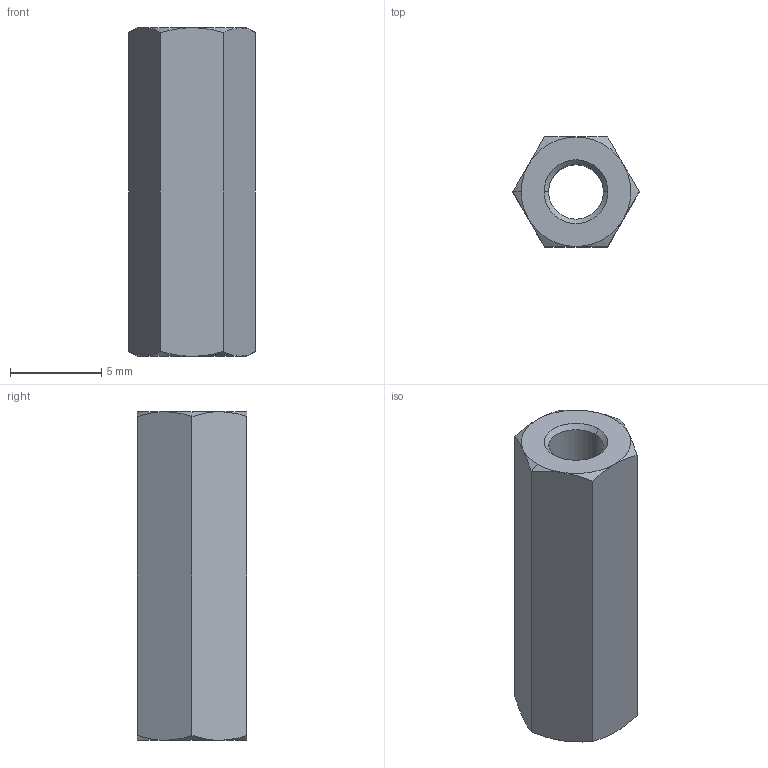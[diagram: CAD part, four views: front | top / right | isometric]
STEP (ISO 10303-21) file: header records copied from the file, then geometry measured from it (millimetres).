
FILE_DESCRIPTION (( 'STEP AP203' ), '1' );
FILE_NAME ('N0503.030-018-NP.step', '2025-02-27T14:41:14', ( '' ), ( '' ), 'SwSTEP 2.0', 'SolidWorks 2019', '' );
FILE_SCHEMA (( 'CONFIG_CONTROL_DESIGN' ));
Length unit declared in the file: millimetre
Products named in the file (1): N0503.030-018-NP
Bounding box: 6.93 x 6 x 18 mm (x, y, z)
Volume: 432.9 mm3; surface area: 586.5 mm2
Topology: 1 solids, 1 shells, 28 faces, 60 edges, 34 vertices
Faces by surface type: cone 18, plane 8, cylinder 2
Entity records: 879 total; most frequent: CARTESIAN_POINT 227, ORIENTED_EDGE 120, DIRECTION 116, EDGE_CURVE 60, AXIS2_PLACEMENT_3D 51, VERTEX_POINT 34, EDGE_LOOP 30, FACE_OUTER_BOUND 28
